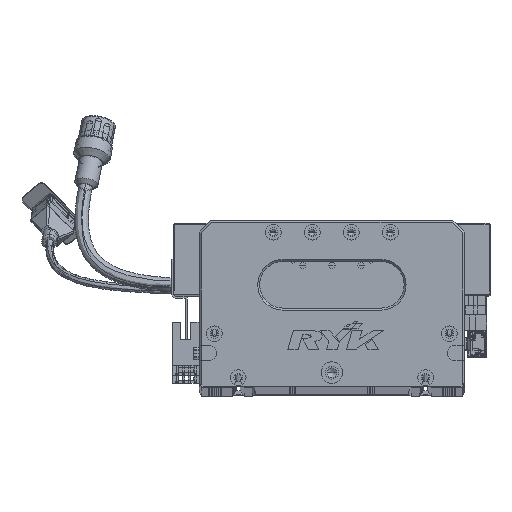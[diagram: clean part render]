
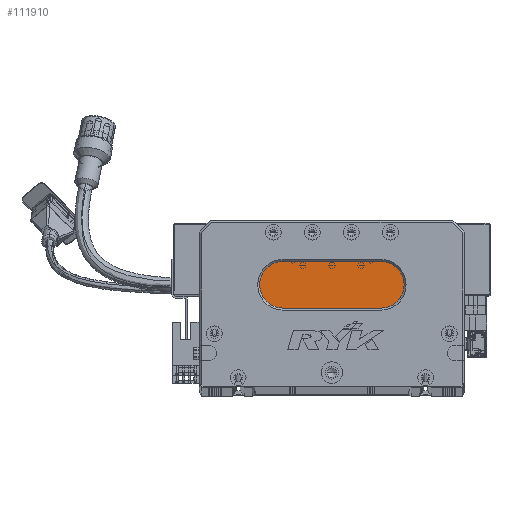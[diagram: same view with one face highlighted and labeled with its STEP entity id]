
A CAD part, top view. The second image highlights one B-rep face of the part: STEP entity #111910.
In plain terms, the highlighted planar face has unit normal (0, 0, 1) as drawn and (0, 0, -1) by its records, which use the part's own axes.
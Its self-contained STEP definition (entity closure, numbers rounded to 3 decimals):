
#1673 = DIRECTION ( 'NONE',  ( -1., 0., 0. ) ) ;
#5197 = FACE_OUTER_BOUND ( 'NONE', #128044, .T. ) ;
#5777 = AXIS2_PLACEMENT_3D ( 'NONE', #22705, #12199, #1673 ) ;
#9309 = CARTESIAN_POINT ( 'NONE',  ( 93., 64., 13. ) ) ;
#9351 = VERTEX_POINT ( 'NONE', #81939 ) ;
#12199 = DIRECTION ( 'NONE',  ( 0., 0., -1. ) ) ;
#22705 = CARTESIAN_POINT ( 'NONE',  ( 93., 52., 13. ) ) ;
#25766 = EDGE_CURVE ( 'NONE', #49332, #29740, #36587, .T. ) ;
#29740 = VERTEX_POINT ( 'NONE', #47798 ) ;
#30246 = ORIENTED_EDGE ( 'NONE', *, *, #45890, .T. ) ;
#33524 = LINE ( 'NONE', #103272, #126768 ) ;
#36587 = CIRCLE ( 'NONE', #77746, 12. ) ;
#38310 = EDGE_CURVE ( 'NONE', #9351, #86538, #33524, .T. ) ;
#38934 = CIRCLE ( 'NONE', #5777, 12. ) ;
#40590 = ORIENTED_EDGE ( 'NONE', *, *, #38310, .T. ) ;
#42009 = EDGE_CURVE ( 'NONE', #57525, #49332, #85081, .T. ) ;
#43142 = DIRECTION ( 'NONE',  ( 0., 0., -1. ) ) ;
#45890 = EDGE_CURVE ( 'NONE', #29740, #9351, #54970, .T. ) ;
#47798 = CARTESIAN_POINT ( 'NONE',  ( 31., 52., 13. ) ) ;
#49332 = VERTEX_POINT ( 'NONE', #56095 ) ;
#50935 = DIRECTION ( 'NONE',  ( -1., 0., 0. ) ) ;
#52701 = DIRECTION ( 'NONE',  ( -1., 0., 0. ) ) ;
#53470 = ORIENTED_EDGE ( 'NONE', *, *, #42009, .T. ) ;
#54970 = CIRCLE ( 'NONE', #67421, 12. ) ;
#56095 = CARTESIAN_POINT ( 'NONE',  ( 43., 40., 13. ) ) ;
#57271 = VECTOR ( 'NONE', #50935, 1000. ) ;
#57525 = VERTEX_POINT ( 'NONE', #84883 ) ;
#64629 = CARTESIAN_POINT ( 'NONE',  ( 93., 52., 13. ) ) ;
#67421 = AXIS2_PLACEMENT_3D ( 'NONE', #98862, #97977, #109377 ) ;
#73266 = EDGE_CURVE ( 'NONE', #86538, #57525, #38934, .T. ) ;
#77746 = AXIS2_PLACEMENT_3D ( 'NONE', #85610, #43142, #52701 ) ;
#81939 = CARTESIAN_POINT ( 'NONE',  ( 43., 64., 13. ) ) ;
#84883 = CARTESIAN_POINT ( 'NONE',  ( 93., 40., 13. ) ) ;
#85081 = LINE ( 'NONE', #101731, #57271 ) ;
#85610 = CARTESIAN_POINT ( 'NONE',  ( 43., 52., 13. ) ) ;
#86538 = VERTEX_POINT ( 'NONE', #9309 ) ;
#93245 = DIRECTION ( 'NONE',  ( 1., 0., 0. ) ) ;
#97977 = DIRECTION ( 'NONE',  ( 0., 0., -1. ) ) ;
#98862 = CARTESIAN_POINT ( 'NONE',  ( 43., 52., 13. ) ) ;
#101731 = CARTESIAN_POINT ( 'NONE',  ( 93., 40., 13. ) ) ;
#103272 = CARTESIAN_POINT ( 'NONE',  ( 93., 64., 13. ) ) ;
#108039 = DIRECTION ( 'NONE',  ( -1., 0., 0. ) ) ;
#108233 = ORIENTED_EDGE ( 'NONE', *, *, #25766, .T. ) ;
#109377 = DIRECTION ( 'NONE',  ( -1., 0., 0. ) ) ;
#111910 = ADVANCED_FACE ( 'NONE', ( #5197 ), #129035, .T. ) ;
#118118 = DIRECTION ( 'NONE',  ( 0., 0., -1. ) ) ;
#126768 = VECTOR ( 'NONE', #93245, 1000. ) ;
#127190 = AXIS2_PLACEMENT_3D ( 'NONE', #64629, #118118, #108039 ) ;
#128044 = EDGE_LOOP ( 'NONE', ( #131637, #53470, #108233, #30246, #40590 ) ) ;
#129035 = PLANE ( 'NONE',  #127190 ) ;
#131637 = ORIENTED_EDGE ( 'NONE', *, *, #73266, .T. ) ;
